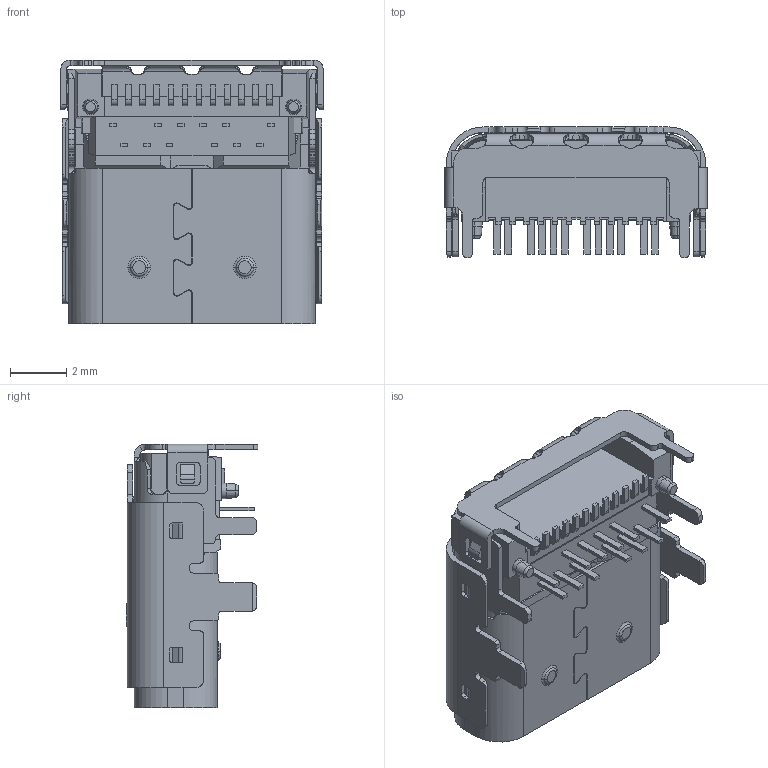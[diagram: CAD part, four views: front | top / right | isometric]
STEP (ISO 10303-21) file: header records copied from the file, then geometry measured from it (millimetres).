
FILE_DESCRIPTION (( 'STEP AP214' ), '1' );
FILE_NAME ('U5130-24PN9.34L.STEP', '2026-06-02T07:01:06', ( '' ), ( '' ), 'SwSTEP 2.0', 'SolidWorks 2024', '' );
FILE_SCHEMA (( 'AUTOMOTIVE_DESIGN' ));
Length unit declared in the file: millimetre
Products named in the file (1): U5130-24PN9.34L
Bounding box: 9.3 x 4.67 x 9.34 mm (x, y, z)
Volume: 149.2 mm3; surface area: 845.3 mm2
Topology: 1 solids, 1 shells, 1607 faces, 4542 edges, 2948 vertices
Faces by surface type: plane 934, cylinder 499, bspline 132, cone 29, torus 13
Entity records: 57951 total; most frequent: CARTESIAN_POINT 16861, ORIENTED_EDGE 9084, DIRECTION 7898, EDGE_CURVE 4542, LINE 2978, VECTOR 2978, VERTEX_POINT 2948, AXIS2_PLACEMENT_3D 2460
